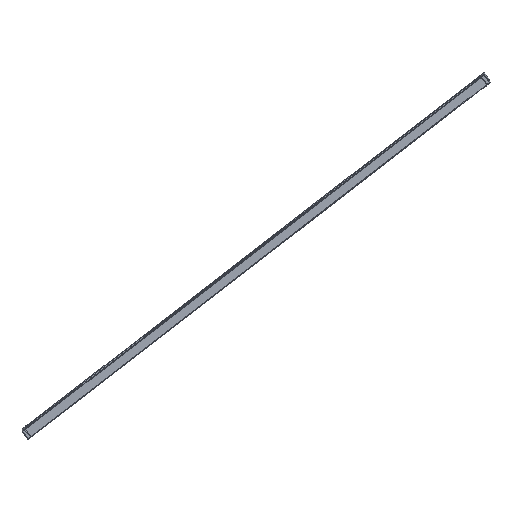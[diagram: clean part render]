
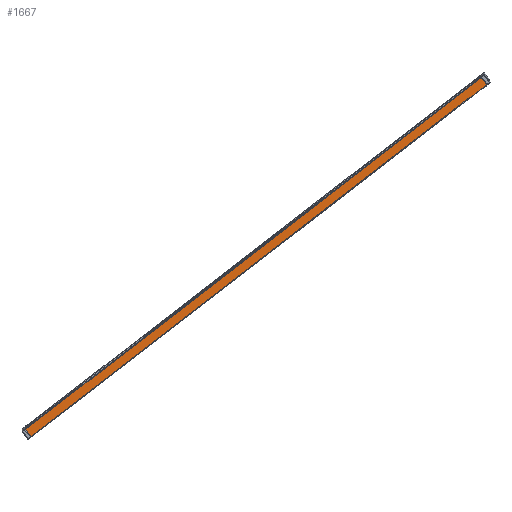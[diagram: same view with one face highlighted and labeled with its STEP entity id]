
A CAD part, left-side view. The second image highlights one B-rep face of the part: STEP entity #1667.
In plain terms, the highlighted planar face has unit normal (-1, -0.001, -0.012) as drawn and (0, 0, -1) by its records, which use the part's own axes.
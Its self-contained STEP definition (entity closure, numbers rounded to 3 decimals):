
#73 = AXIS2_PLACEMENT_3D ( 'NONE', #8099, #5412, #6931 ) ;
#172 = CARTESIAN_POINT ( 'NONE',  ( 14.5, 982., 0. ) ) ;
#746 = CARTESIAN_POINT ( 'NONE',  ( 14.5, -979.5, 0. ) ) ;
#867 = LINE ( 'NONE', #1499, #6269 ) ;
#1499 = CARTESIAN_POINT ( 'NONE',  ( 17., -979.5, 0. ) ) ;
#1534 = DIRECTION ( 'NONE',  ( -1., 0., 0. ) ) ;
#1604 = CARTESIAN_POINT ( 'NONE',  ( -17., 979.5, 0. ) ) ;
#1667 = ADVANCED_FACE ( 'NONE', ( #2907 ), #3410, .F. ) ;
#1720 = CARTESIAN_POINT ( 'NONE',  ( -14.5, -979.5, 0. ) ) ;
#1839 = EDGE_CURVE ( 'NONE', #1916, #3033, #8343, .T. ) ;
#1875 = DIRECTION ( 'NONE',  ( 0., 1., 0. ) ) ;
#1916 = VERTEX_POINT ( 'NONE', #1720 ) ;
#1994 = EDGE_LOOP ( 'NONE', ( #7145, #6123, #8260, #8483 ) ) ;
#2178 = VECTOR ( 'NONE', #5505, 1000. ) ;
#2402 = CARTESIAN_POINT ( 'NONE',  ( -14.5, -10802., 0. ) ) ;
#2410 = EDGE_CURVE ( 'NONE', #2991, #2636, #8635, .T. ) ;
#2636 = VERTEX_POINT ( 'NONE', #746 ) ;
#2907 = FACE_OUTER_BOUND ( 'NONE', #1994, .T. ) ;
#2986 = VECTOR ( 'NONE', #9108, 1000. ) ;
#2991 = VERTEX_POINT ( 'NONE', #4767 ) ;
#3033 = VERTEX_POINT ( 'NONE', #7739 ) ;
#3410 = PLANE ( 'NONE',  #73 ) ;
#3451 = EDGE_CURVE ( 'NONE', #2636, #1916, #867, .T. ) ;
#4767 = CARTESIAN_POINT ( 'NONE',  ( 14.5, 979.5, 0. ) ) ;
#5162 = LINE ( 'NONE', #1604, #2178 ) ;
#5412 = DIRECTION ( 'NONE',  ( 0., 0., 1. ) ) ;
#5505 = DIRECTION ( 'NONE',  ( 1., 0., 0. ) ) ;
#6123 = ORIENTED_EDGE ( 'NONE', *, *, #3451, .T. ) ;
#6269 = VECTOR ( 'NONE', #1534, 1000. ) ;
#6931 = DIRECTION ( 'NONE',  ( 1., 0., 0. ) ) ;
#7145 = ORIENTED_EDGE ( 'NONE', *, *, #2410, .T. ) ;
#7739 = CARTESIAN_POINT ( 'NONE',  ( -14.5, 979.5, 0. ) ) ;
#8099 = CARTESIAN_POINT ( 'NONE',  ( -17., -982., 0. ) ) ;
#8260 = ORIENTED_EDGE ( 'NONE', *, *, #1839, .T. ) ;
#8343 = LINE ( 'NONE', #2402, #9286 ) ;
#8483 = ORIENTED_EDGE ( 'NONE', *, *, #8538, .T. ) ;
#8538 = EDGE_CURVE ( 'NONE', #3033, #2991, #5162, .T. ) ;
#8635 = LINE ( 'NONE', #172, #2986 ) ;
#9108 = DIRECTION ( 'NONE',  ( 0., -1., 0. ) ) ;
#9286 = VECTOR ( 'NONE', #1875, 1000. ) ;
